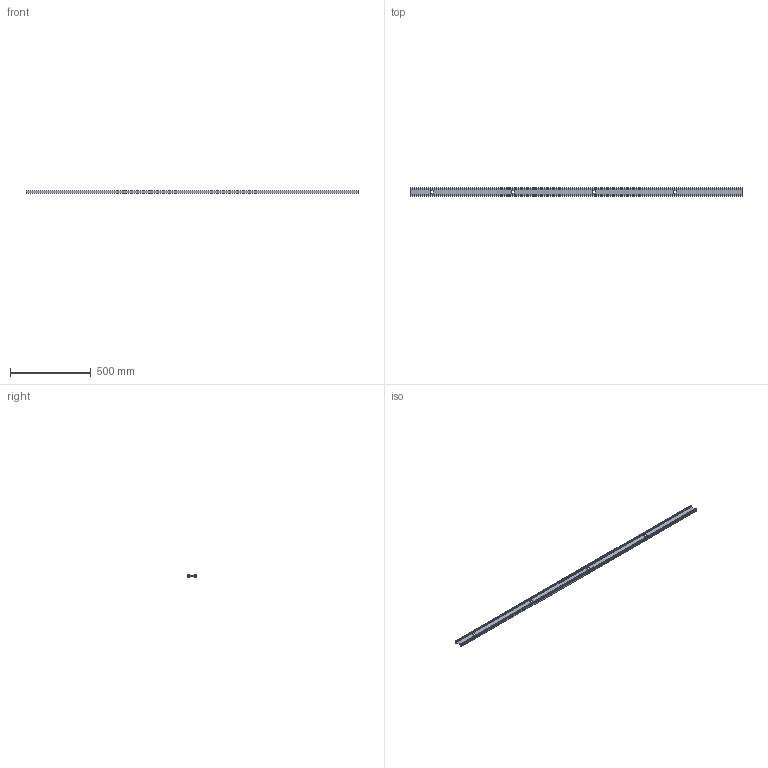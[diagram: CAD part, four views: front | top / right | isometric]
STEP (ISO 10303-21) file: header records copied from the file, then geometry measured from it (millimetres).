
FILE_DESCRIPTION(('STEP AP242'),'1');
FILE_NAME('OPO_65.081.72.stp','2026-01-30T20:51:32',(' '),(' '),'Spatial InterOp 3D',' ',' ');
FILE_SCHEMA(('AP242_MANAGED_MODEL_BASED_3D_ENGINEERING_MIM_LF {1 0 10303 442 1 1 4}'));
Length unit declared in the file: millimetre
Products named in the file (1): 1
Bounding box: 2050 x 55 x 15 mm (x, y, z)
Volume: 504512 mm3; surface area: 441568 mm2
Topology: 1 solids, 1 shells, 88 faces, 244 edges, 162 vertices
Faces by surface type: plane 68, cylinder 20
Entity records: 3528 total; most frequent: CARTESIAN_POINT 495, ORIENTED_EDGE 488, DIRECTION 462, EDGE_CURVE 244, LINE 204, VECTOR 204, VERTEX_POINT 162, AXIS2_PLACEMENT_3D 129
